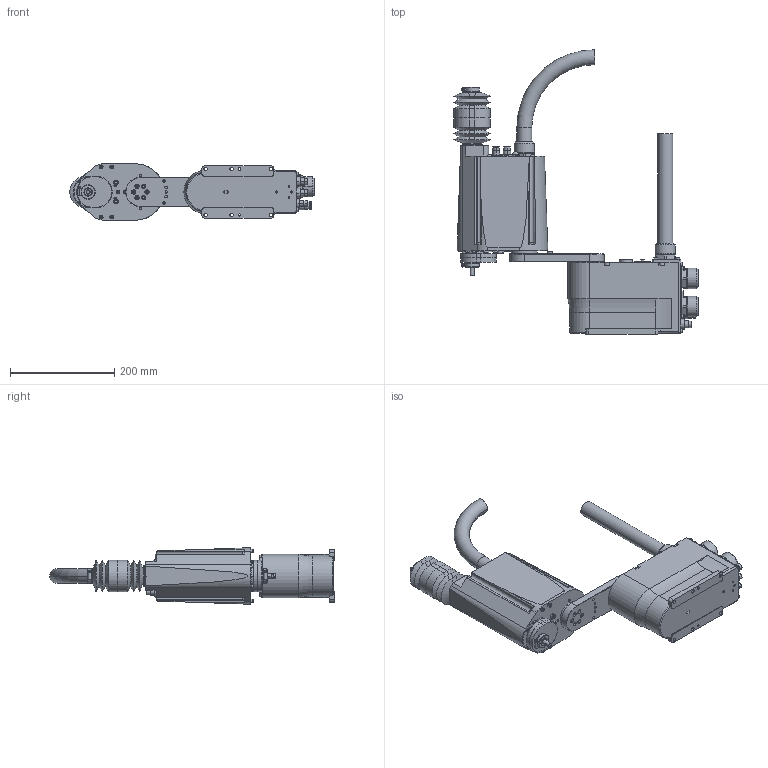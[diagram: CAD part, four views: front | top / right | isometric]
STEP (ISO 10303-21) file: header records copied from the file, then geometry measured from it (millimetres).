
FILE_DESCRIPTION( ( '' ), '1' );
FILE_NAME( '//expscmdclustefs.cadenas.external/client_exchange/iodir/jobs/output/wkb51504272_no0/STEP/G1_221CZ_2_14b.stp', '2012-11-22T13:06:03', ( '' ), ( '' ), ' ', ' ', ' ' );
FILE_SCHEMA( ( 'automotive_design' ) );
Length unit declared in the file: millimetre
Products named in the file (8): 1; 2; 3; 4; 5; 6; 7; 8
Bounding box: 468 x 545 x 108 mm (x, y, z)
Volume: 5400120 mm3; surface area: 486409.5 mm2
Topology: 8 solids, 10 shells, 1777 faces, 4196 edges, 2711 vertices
Faces by surface type: plane 970, cylinder 578, cone 206, torus 18, sphere 5
Entity records: 100481 total; most frequent: DIRECTION 9230, CARTESIAN_POINT 9129, STYLED_ITEM 8690, PRESENTATION_STYLE_ASSIGNMENT 8690, COLOUR_RGB 8690, ORIENTED_EDGE 8388, EDGE_CURVE 4194, CURVE_STYLE 4194
